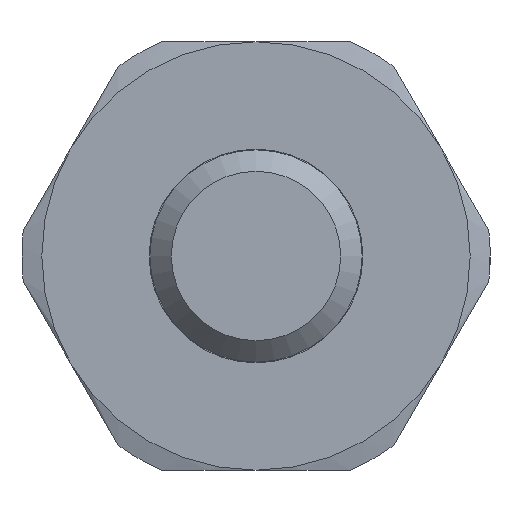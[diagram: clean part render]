
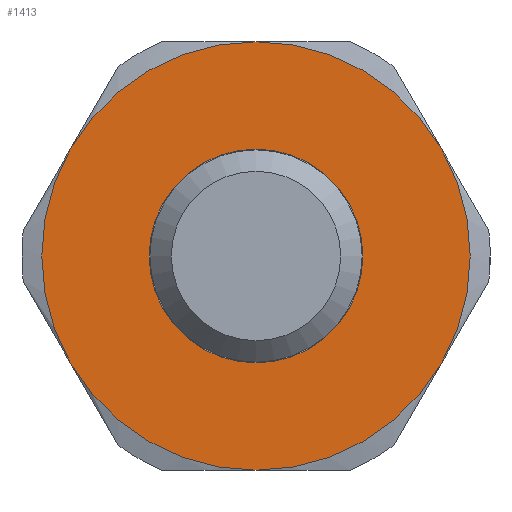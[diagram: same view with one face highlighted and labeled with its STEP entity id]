
A CAD part, left-side view. The second image highlights one B-rep face of the part: STEP entity #1413.
In plain terms, the highlighted free-form (B-spline) face has degree [1, 1] with [2, 2] control points.
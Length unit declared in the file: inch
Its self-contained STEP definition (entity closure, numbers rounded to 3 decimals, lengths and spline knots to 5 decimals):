
#292=CARTESIAN_POINT('',(-0.219,-0.2495,0.0));
#293=VERTEX_POINT('',#292);
#294=CARTESIAN_POINT('',(-0.219,0.,0.0));
#295=DIRECTION('',(1.0,0.0,0.0));
#296=DIRECTION('',(0.0,-1.0,0.0));
#297=AXIS2_PLACEMENT_3D('',#294,#295,#296);
#298=CIRCLE('',#297,0.2495);
#299=EDGE_CURVE('',#293,#293,#298,.T.);
#1349=CARTESIAN_POINT('',(-0.219,0.5,0.5));
#1350=CARTESIAN_POINT('',(-0.219,-0.5,0.5));
#1351=CARTESIAN_POINT('',(-0.219,0.5,-0.5));
#1352=CARTESIAN_POINT('',(-0.219,-0.5,-0.5));
#1353=B_SPLINE_SURFACE_WITH_KNOTS('',1,1,((#1349,#1351),(#1350,#1352)),.UNSPECIFIED.,.F.,.F.,.U.,(2,2),(2,2),(0.0,1.),(0.0,1.),.UNSPECIFIED.);
#1354=CARTESIAN_POINT('',(-0.219,-0.43301,-0.25));
#1355=VERTEX_POINT('',#1354);
#1356=CARTESIAN_POINT('',(-0.219,0.0,-0.5));
#1357=VERTEX_POINT('',#1356);
#1358=CARTESIAN_POINT('',(-0.219,0.0,0.0));
#1359=DIRECTION('',(1.0,0.0,0.0));
#1360=DIRECTION('',(0.0,-1.0,0.0));
#1361=AXIS2_PLACEMENT_3D('',#1358,#1359,#1360);
#1362=CIRCLE('',#1361,0.5);
#1363=EDGE_CURVE('',#1355,#1357,#1362,.T.);
#1364=ORIENTED_EDGE('',*,*,#1363,.F.);
#1365=CARTESIAN_POINT('',(-0.219,-0.43301,0.25));
#1366=VERTEX_POINT('',#1365);
#1367=CARTESIAN_POINT('',(-0.219,0.0,0.0));
#1368=DIRECTION('',(1.0,0.0,0.0));
#1369=DIRECTION('',(0.0,-1.0,0.0));
#1370=AXIS2_PLACEMENT_3D('',#1367,#1368,#1369);
#1371=CIRCLE('',#1370,0.5);
#1372=EDGE_CURVE('',#1366,#1355,#1371,.T.);
#1373=ORIENTED_EDGE('',*,*,#1372,.F.);
#1374=CARTESIAN_POINT('',(-0.219,0.0,0.5));
#1375=VERTEX_POINT('',#1374);
#1376=CARTESIAN_POINT('',(-0.219,0.0,0.0));
#1377=DIRECTION('',(1.0,0.0,0.0));
#1378=DIRECTION('',(0.0,-1.0,0.0));
#1379=AXIS2_PLACEMENT_3D('',#1376,#1377,#1378);
#1380=CIRCLE('',#1379,0.5);
#1381=EDGE_CURVE('',#1375,#1366,#1380,.T.);
#1382=ORIENTED_EDGE('',*,*,#1381,.F.);
#1383=CARTESIAN_POINT('',(-0.219,0.43301,0.25));
#1384=VERTEX_POINT('',#1383);
#1385=CARTESIAN_POINT('',(-0.219,0.0,0.0));
#1386=DIRECTION('',(1.0,0.0,0.0));
#1387=DIRECTION('',(0.0,-1.0,0.0));
#1388=AXIS2_PLACEMENT_3D('',#1385,#1386,#1387);
#1389=CIRCLE('',#1388,0.5);
#1390=EDGE_CURVE('',#1384,#1375,#1389,.T.);
#1391=ORIENTED_EDGE('',*,*,#1390,.F.);
#1392=CARTESIAN_POINT('',(-0.219,0.43301,-0.25));
#1393=VERTEX_POINT('',#1392);
#1394=CARTESIAN_POINT('',(-0.219,0.0,0.0));
#1395=DIRECTION('',(1.0,0.0,0.0));
#1396=DIRECTION('',(0.0,-1.0,0.0));
#1397=AXIS2_PLACEMENT_3D('',#1394,#1395,#1396);
#1398=CIRCLE('',#1397,0.5);
#1399=EDGE_CURVE('',#1393,#1384,#1398,.T.);
#1400=ORIENTED_EDGE('',*,*,#1399,.F.);
#1401=CARTESIAN_POINT('',(-0.219,0.0,0.0));
#1402=DIRECTION('',(1.0,0.0,0.0));
#1403=DIRECTION('',(0.0,-1.0,0.0));
#1404=AXIS2_PLACEMENT_3D('',#1401,#1402,#1403);
#1405=CIRCLE('',#1404,0.5);
#1406=EDGE_CURVE('',#1357,#1393,#1405,.T.);
#1407=ORIENTED_EDGE('',*,*,#1406,.F.);
#1408=EDGE_LOOP('',(#1364,#1373,#1382,#1391,#1400,#1407));
#1409=FACE_OUTER_BOUND('',#1408,.T.);
#1410=ORIENTED_EDGE('',*,*,#299,.T.);
#1411=EDGE_LOOP('',(#1410));
#1412=FACE_BOUND('',#1411,.T.);
#1413=ADVANCED_FACE('',(#1409,#1412),#1353,.F.);
